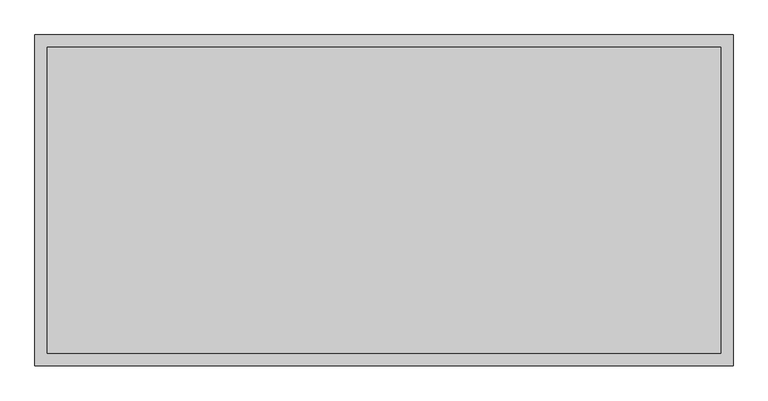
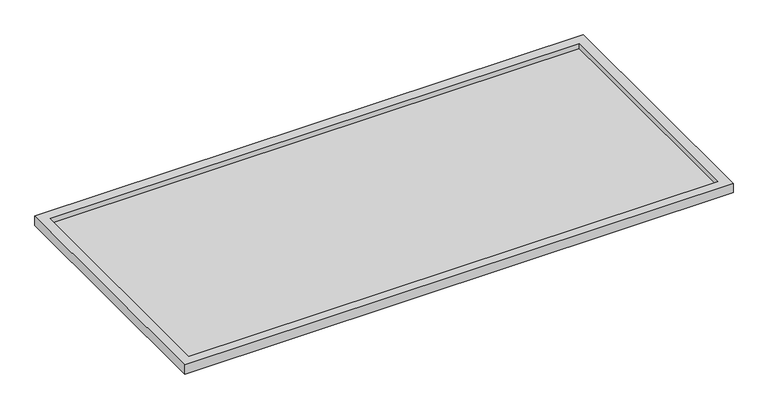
"""IFC4 building model written with IfcOpenShell, lengths in millimetres: proxy geometry, PLATO DE DUCHA : Plato de Ducha 135x285 cm."""

from ifc_helpers import new_model, si_unit, frame, origin, place, context, project, spatial, polyline, outline, extrude, faceted_brep, source, transform, mapped, element, save


def generic_models_308d6f67(model_context):
    return source(origin(), model_context, "Body", "SolidModel", [
        extrude(outline(polyline([(-1375.0, 625.0), (1375.0, 625.0), (1375.0, -625.0), (-1375.0, -625.0), (-1375.0, 625.0)])), frame((0.0, 0.0, 20.0), z_axis=(0.0, 0.0, 1.0), x_axis=(1.0, 0.0, 0.0)), (0.0, 0.0, 1.0), 1.9779388),
        faceted_brep([(1425.0, 675.0, 0.0), (1425.0, 675.0, 50.0), (1425.0, -675.0, 50.0), (1425.0, -675.0, 0.0), (1422.5, 672.5, 47.5), (1422.5, 672.5, 0.0), (1422.5, -672.5, 0.0), (1422.5, -672.5, 47.5), (1377.5, 627.5, 20.0), (1377.5, 627.5, 47.5), (1377.5, -627.5, 47.5), (1377.5, -627.5, 20.0), (1375.0, 625.0, 50.0), (1375.0, 625.0, 20.0), (1375.0, -625.0, 20.0), (1375.0, -625.0, 50.0), (-1425.0, -675.0, 50.0), (-1425.0, -675.0, 0.0), (-1422.5, -672.5, 0.0), (-1422.5, -672.5, 47.5), (-1377.5, -627.5, 47.5), (-1377.5, -627.5, 20.0), (-1375.0, -625.0, 20.0), (-1375.0, -625.0, 50.0), (-1425.0, 675.0, 50.0), (-1425.0, 675.0, 0.0), (-1422.5, 672.5, 0.0), (-1422.5, 672.5, 47.5), (-1377.5, 627.5, 47.5), (-1377.5, 627.5, 20.0), (-1375.0, 625.0, 20.0), (-1375.0, 625.0, 50.0)], [[[0, 1, 2, 3]], [[4, 5, 6, 7]], [[8, 9, 10, 11]], [[12, 13, 14, 15]], [[3, 2, 16, 17]], [[7, 6, 18, 19]], [[11, 10, 20, 21]], [[15, 14, 22, 23]], [[17, 16, 24, 25]], [[19, 18, 26, 27]], [[21, 20, 28, 29]], [[23, 22, 30, 31]], [[25, 24, 1, 0]], [[3, 17, 25, 0], [5, 26, 18, 6]], [[27, 26, 5, 4]], [[7, 19, 27, 4], [9, 28, 20, 10]], [[29, 28, 9, 8]], [[11, 21, 29, 8], [13, 30, 22, 14]], [[31, 30, 13, 12]], [[1, 24, 16, 2], [15, 23, 31, 12]]]),
    ])


if __name__ == "__main__":
    model = new_model("IFC4")
    model_context = context("Model", 3, world=origin())
    ifc_project = project(units=[si_unit("LENGTHUNIT", "METRE", prefix="MILLI")], contexts=[model_context])
    site = spatial("IfcSite", under=ifc_project)
    building = spatial("IfcBuilding", under=site)
    placement = place(None, origin())
    generic_models_shape = generic_models_308d6f67(model_context)
    element("IfcBuildingElementProxy", 1, Name="PLATO DE DUCHA : Plato de Ducha 135x285 cm", ObjectType="PLATO DE DUCHA : Plato de Ducha 135x285 cm", at=placement, inside=building, context=model_context, shape_type="MappedRepresentation", body=[
        mapped(generic_models_shape, transform((0.0, 0.0, 0.0), x_axis=(1.0, 0.0, 0.0), y_axis=(0.0, 1.0, 0.0), z_axis=(0.0, 0.0, 1.0))),
    ])
    save(model, "model.ifc")
